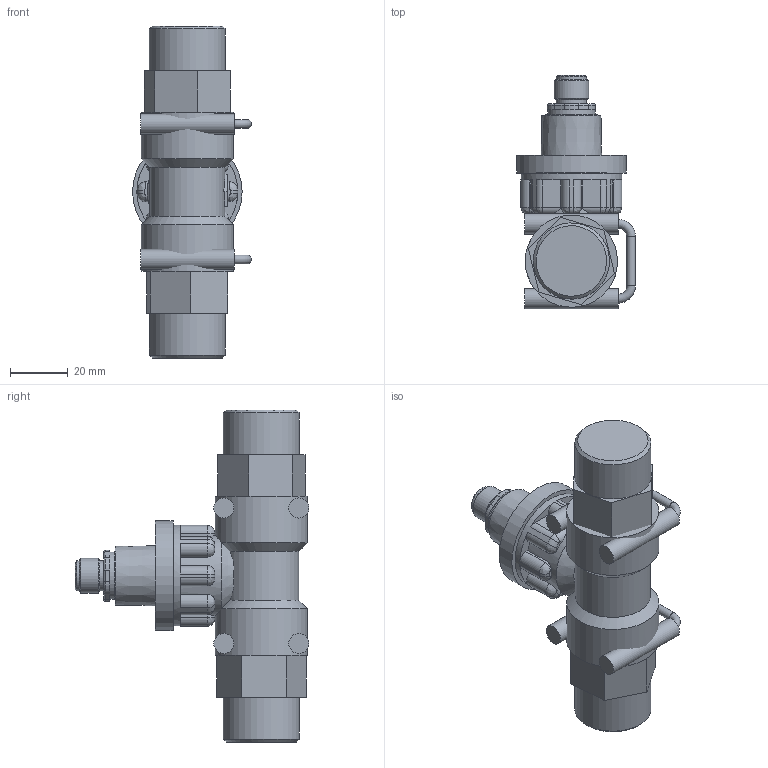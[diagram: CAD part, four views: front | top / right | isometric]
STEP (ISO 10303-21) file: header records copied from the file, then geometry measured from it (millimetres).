
FILE_DESCRIPTION(/* description */ (''),/* implementation_level */ '2;1');
FILE_NAME(/* name */ 'T:\Drawings\Customer Data\3D Customer Models\FT2_75_Fittings_Shrinkwrap.stp',/* time_stamp */ '2016-10-12T14:27:37+01:00',/* author */ ('Stevem'),/* organization */ (''),/* preprocessor_version */ 'ST-DEVELOPER v15.2',/* originating_system */ 'Autodesk Inventor 2014',/* authorisation */ '');
FILE_SCHEMA (('AUTOMOTIVE_DESIGN { 1 0 10303 214 3 1 1 }'));
Length unit declared in the file: inch
Products named in the file (1): FT2_75_Fittings_Shrinkwrap
Bounding box: 41.2 x 81.1 x 115.17 mm (x, y, z)
Surface area: 26662.1 mm2 (no closed solid volume)
Topology: 0 solids, 20 shells, 188 faces, 459 edges, 290 vertices
Faces by surface type: plane 80, cylinder 64, torus 18, bspline 16, cone 10
Full cylindrical faces by diameter (mm): 3 x2, 7 x4, 10.5 x2, 12 x1, 16.45 x1, 26.44 x2, 28 x1, 32 x2, 35 x1, 38 x1
Entity records: 5852 total; most frequent: CARTESIAN_POINT 1315, DIRECTION 955, ORIENTED_EDGE 796, EDGE_CURVE 428, AXIS2_PLACEMENT_3D 384, VERTEX_POINT 286, EDGE_LOOP 215, CIRCLE 209
